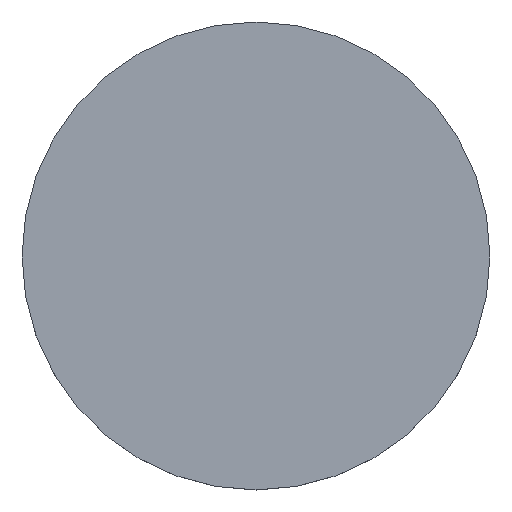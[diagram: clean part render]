
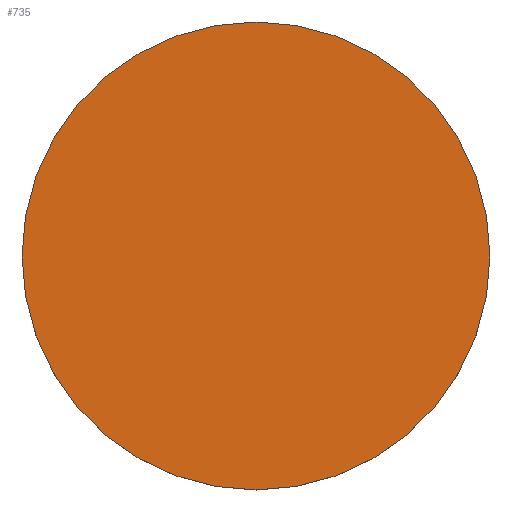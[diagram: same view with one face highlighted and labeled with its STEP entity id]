
A CAD part, top view. The second image highlights one B-rep face of the part: STEP entity #735.
In plain terms, the highlighted planar face has unit normal (0, 0, 1) as drawn and (0, 0, -1) by its records, which use the part's own axes.
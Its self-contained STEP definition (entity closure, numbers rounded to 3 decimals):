
#95 = CARTESIAN_POINT ( 'NONE',  ( 0., 0., 0. ) ) ;
#101 = DIRECTION ( 'NONE',  ( 0., 0., 1. ) ) ;
#112 = PLANE ( 'NONE',  #159 ) ;
#159 = AXIS2_PLACEMENT_3D ( 'NONE', #1084, #336, #1338 ) ;
#178 = CARTESIAN_POINT ( 'NONE',  ( 210., 0., 0. ) ) ;
#223 = DIRECTION ( 'NONE',  ( 0., 0., 1. ) ) ;
#280 = CARTESIAN_POINT ( 'NONE',  ( 0., 0., 0. ) ) ;
#311 = AXIS2_PLACEMENT_3D ( 'NONE', #280, #101, #643 ) ;
#315 = ORIENTED_EDGE ( 'NONE', *, *, #1008, .F. ) ;
#336 = DIRECTION ( 'NONE',  ( 0., 0., 1. ) ) ;
#387 = ORIENTED_EDGE ( 'NONE', *, *, #1351, .F. ) ;
#400 = AXIS2_PLACEMENT_3D ( 'NONE', #95, #223, #1208 ) ;
#496 = VERTEX_POINT ( 'NONE', #1186 ) ;
#643 = DIRECTION ( 'NONE',  ( 1., 0., 0. ) ) ;
#654 = FACE_OUTER_BOUND ( 'NONE', #1277, .T. ) ;
#735 = ADVANCED_FACE ( 'NONE', ( #654 ), #112, .F. ) ;
#946 = VERTEX_POINT ( 'NONE', #178 ) ;
#1008 = EDGE_CURVE ( 'NONE', #946, #496, #1396, .T. ) ;
#1044 = CIRCLE ( 'NONE', #311, 210. ) ;
#1084 = CARTESIAN_POINT ( 'NONE',  ( 0., 0., 0. ) ) ;
#1186 = CARTESIAN_POINT ( 'NONE',  ( -210., 0., 0. ) ) ;
#1208 = DIRECTION ( 'NONE',  ( 1., 0., 0. ) ) ;
#1277 = EDGE_LOOP ( 'NONE', ( #387, #315 ) ) ;
#1338 = DIRECTION ( 'NONE',  ( 1., 0., 0. ) ) ;
#1351 = EDGE_CURVE ( 'NONE', #496, #946, #1044, .T. ) ;
#1396 = CIRCLE ( 'NONE', #400, 210. ) ;
